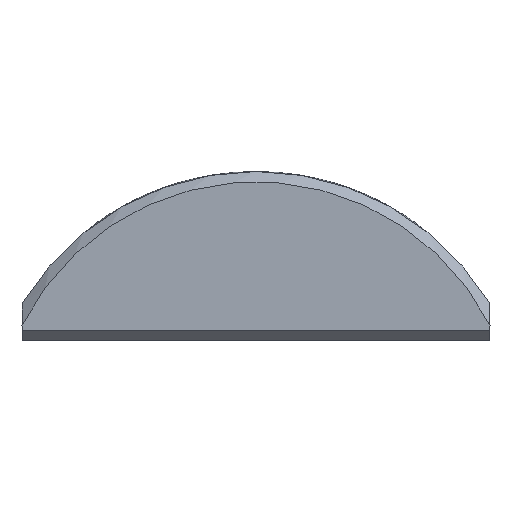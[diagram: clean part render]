
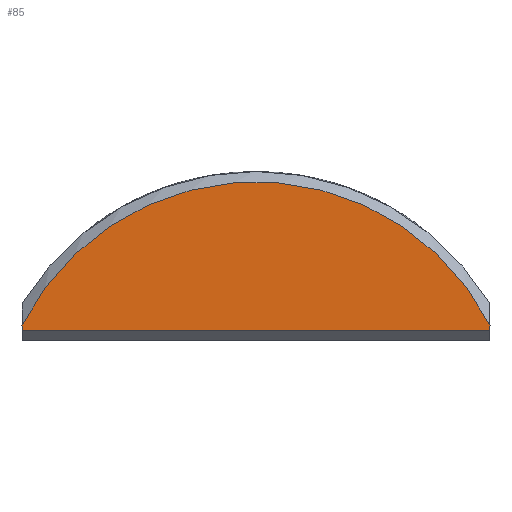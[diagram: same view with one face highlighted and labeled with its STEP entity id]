
A CAD part, front view. The second image highlights one B-rep face of the part: STEP entity #85.
In plain terms, the highlighted planar face has unit normal (0, -1, 0).
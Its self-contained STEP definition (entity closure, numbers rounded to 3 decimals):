
#85=ADVANCED_FACE('',(#133),#498,.T.);
#133=FACE_OUTER_BOUND('',#183,.F.);
#183=EDGE_LOOP('',(#245,#246,#247,#248));
#245=ORIENTED_EDGE('',*,*,#712,.T.);
#246=ORIENTED_EDGE('',*,*,#721,.F.);
#247=ORIENTED_EDGE('',*,*,#718,.T.);
#248=ORIENTED_EDGE('',*,*,#707,.T.);
#498=PLANE('',#1002);
#535=LINE('',#1411,#619);
#538=LINE('',#1426,#622);
#542=LINE('',#1442,#626);
#619=VECTOR('',#1064,45.);
#622=VECTOR('',#1067,0.459);
#626=VECTOR('',#1071,0.459);
#707=EDGE_CURVE('',#947,#948,#535,.T.);
#712=EDGE_CURVE('',#948,#944,#538,.T.);
#718=EDGE_CURVE('',#940,#947,#542,.T.);
#721=EDGE_CURVE('',#940,#944,#835,.T.);
#835=CIRCLE('',#965,25.25);
#940=VERTEX_POINT('',#1384);
#944=VERTEX_POINT('',#1388);
#947=VERTEX_POINT('',#1391);
#948=VERTEX_POINT('',#1392);
#965=AXIS2_PLACEMENT_3D('',#1445,#1075,#1076);
#1002=AXIS2_PLACEMENT_3D('',#1660,#1219,#1220);
#1064=DIRECTION('',(-1.,0.,0.));
#1067=DIRECTION('',(0.,0.,1.));
#1071=DIRECTION('',(0.,0.,-1.));
#1075=DIRECTION('',(0.,-1.,0.));
#1076=DIRECTION('',(0.891,0.,0.454));
#1219=DIRECTION('',(0.,-1.,0.));
#1220=DIRECTION('',(0.,0.,-1.));
#1384=CARTESIAN_POINT('',(1173.632,727.357,13.069));
#1388=CARTESIAN_POINT('',(1128.632,727.357,13.069));
#1391=CARTESIAN_POINT('',(1173.632,727.357,12.61));
#1392=CARTESIAN_POINT('',(1128.632,727.357,12.61));
#1411=CARTESIAN_POINT('',(1173.632,727.357,12.61));
#1426=CARTESIAN_POINT('',(1128.632,727.357,12.61));
#1442=CARTESIAN_POINT('',(1173.632,727.357,13.069));
#1445=CARTESIAN_POINT('',(1151.132,727.357,1.61));
#1660=CARTESIAN_POINT('',(1124.882,727.357,27.86));
